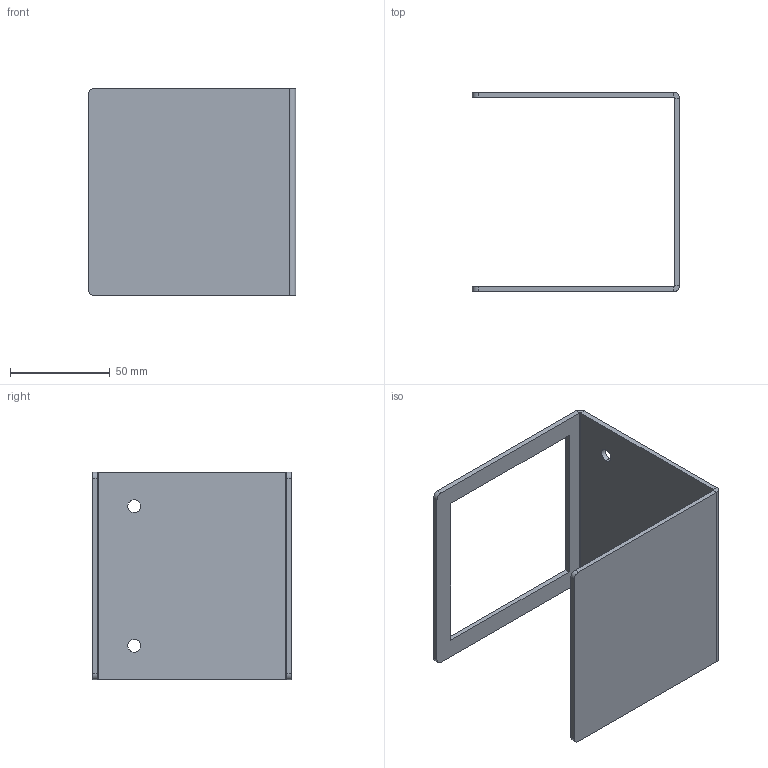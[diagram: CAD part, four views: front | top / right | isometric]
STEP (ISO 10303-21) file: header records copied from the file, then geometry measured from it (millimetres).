
FILE_DESCRIPTION (( 'STEP AP203' ), '1' );
FILE_NAME ('CWS6.STEP', '2021-04-13T07:06:17', ( '' ), ( '' ), 'SwSTEP 2.0', 'SolidWorks 2021', '' );
FILE_SCHEMA (( 'CONFIG_CONTROL_DESIGN' ));
Length unit declared in the file: millimetre
Products named in the file (1): CWS6
Bounding box: 104 x 100 x 104 mm (x, y, z)
Volume: 60564.2 mm3; surface area: 51408.1 mm2
Topology: 1 solids, 1 shells, 34 faces, 80 edges, 48 vertices
Faces by surface type: plane 22, cylinder 12
Entity records: 1049 total; most frequent: DIRECTION 174, CARTESIAN_POINT 163, ORIENTED_EDGE 160, EDGE_CURVE 80, AXIS2_PLACEMENT_3D 59, VECTOR 56, LINE 56, VERTEX_POINT 48
